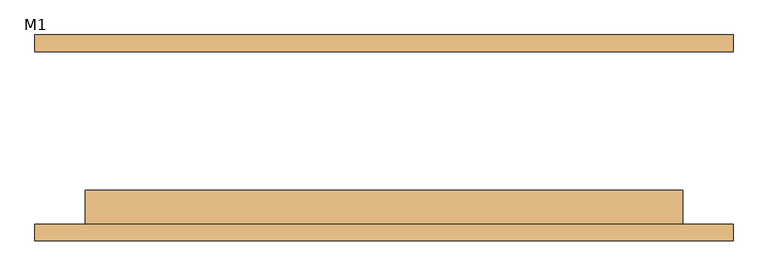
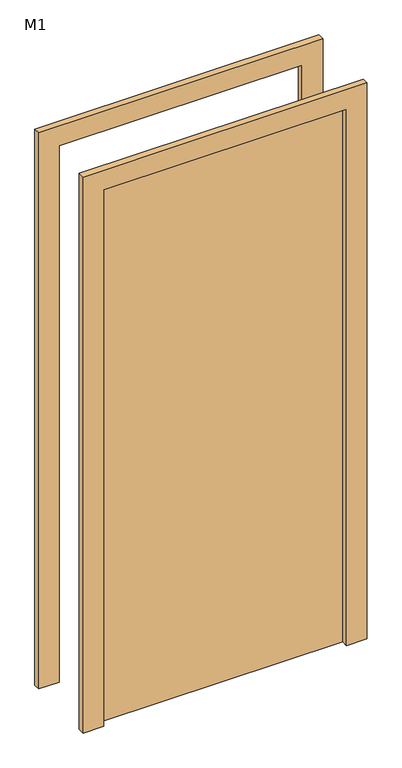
"""IFC4 building model written with IfcOpenShell, lengths in millimetres: door geometry, 单扇 - 与墙齐 : M1."""

from ifc_helpers import new_model, si_unit, frame, origin, origin_with_axes, place, context, project, spatial, polyline, outline, extrude, source, transform, mapped, element, save


def m1_f3cb3123(model_context):
    return source(origin(), model_context, "Body", "SweptSolid", [
        extrude(outline(polyline([(2176.0, -526.0), (0.0, -526.0), (0.0, -450.0), (2100.0, -450.0), (2100.0, 450.0), (0.0, 450.0), (0.0, 526.0), (2176.0, 526.0), (2176.0, -526.0)])), frame((0.0, -155.0, 0.0), z_axis=(0.0, 1.0, 0.0), x_axis=(0.0, 0.0, 1.0)), (0.0, 0.0, 1.0), 25.0),
        extrude(outline(polyline([(2176.0, 526.0), (2176.0, -526.0), (0.0, -526.0), (0.0, -450.0), (2100.0, -450.0), (2100.0, 450.0), (0.0, 450.0), (0.0, 526.0), (2176.0, 526.0)])), frame((0.0, 130.0, 0.0), z_axis=(0.0, 1.0, 0.0), x_axis=(0.0, 0.0, 1.0)), (0.0, 0.0, 1.0), 25.0),
        extrude(outline(polyline([(450.0, -79.0), (450.0, -130.0), (-450.0, -130.0), (-450.0, -79.0), (450.0, -79.0)])), origin_with_axes(), (0.0, 0.0, 1.0), 2100.0),
    ])


if __name__ == "__main__":
    model = new_model("IFC4")
    model_context = context("Model", 3, world=origin())
    ifc_project = project(units=[si_unit("LENGTHUNIT", "METRE", prefix="MILLI")], contexts=[model_context])
    site = spatial("IfcSite", under=ifc_project)
    building = spatial("IfcBuilding", under=site)
    placement = place(None, origin())
    m1_shape = m1_f3cb3123(model_context)
    element("IfcDoor", 1, ObjectType="单扇 - 与墙齐 : M1", at=placement, inside=building, context=model_context, shape_type="MappedRepresentation", body=[
        mapped(m1_shape, transform((0.0, 0.0, 0.0), x_axis=(1.0, 0.0, 0.0), y_axis=(0.0, 1.0, 0.0), z_axis=(0.0, 0.0, 1.0))),
    ])
    save(model, "model.ifc")
